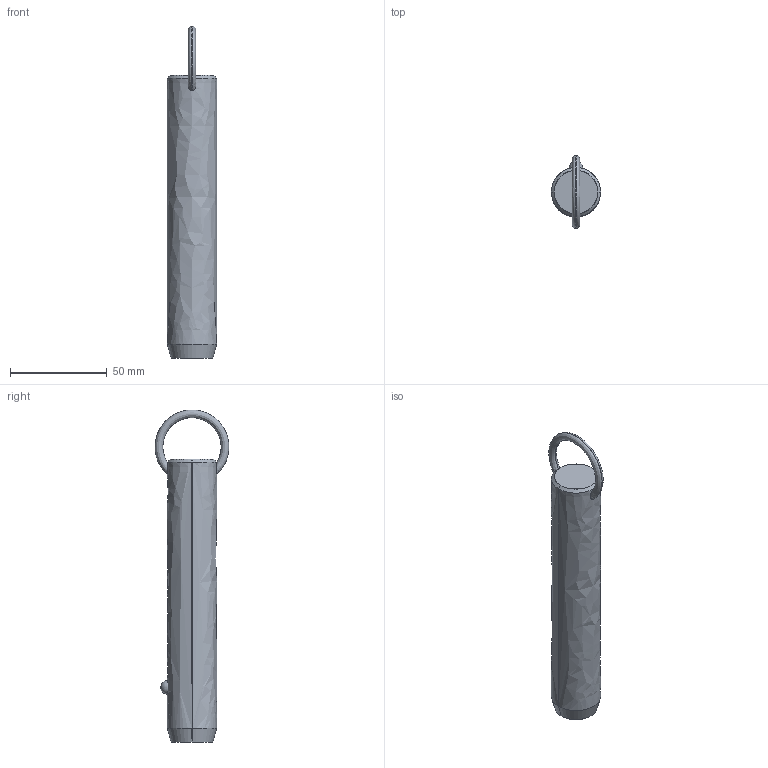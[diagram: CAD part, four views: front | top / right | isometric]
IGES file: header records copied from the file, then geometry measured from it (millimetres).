
Start section: SolidWorks IGES file using analytic representation for surfaces
Global section: file name: C:\Users\liam_\OneDrive\Documents\WORK\Work for WixRoyd\Job Files\J-00019 - Matt Davis CAD Checking\04. CAD Drawings\automotion20190605\P1250.2_v2\P1250.2_v2_20190729_IGES\P1250.100-400.igs; native system: SolidWorks 2017; preprocessor: SolidWorks 2017; author: liam_; date: 190730.173907; units: millimetre
Bounding box: 25.4 x 38.09 x 171.39 mm (x, y, z)
Surface area: 13423.6 mm2 (no closed solid volume)
Topology: 0 solids, 0 shells, 12 faces, 298 edges, 296 vertices
Faces by surface type: revolution 8, bspline 4
